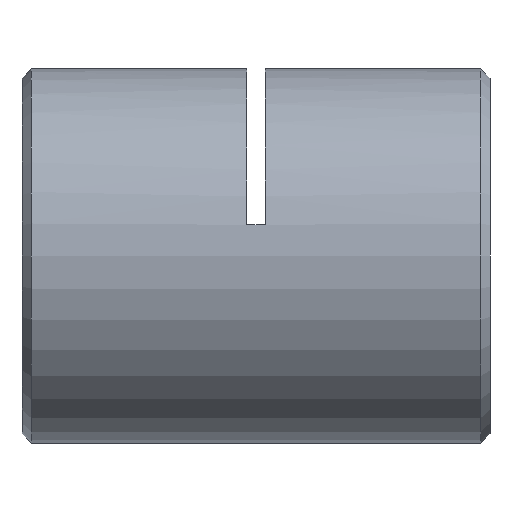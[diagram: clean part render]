
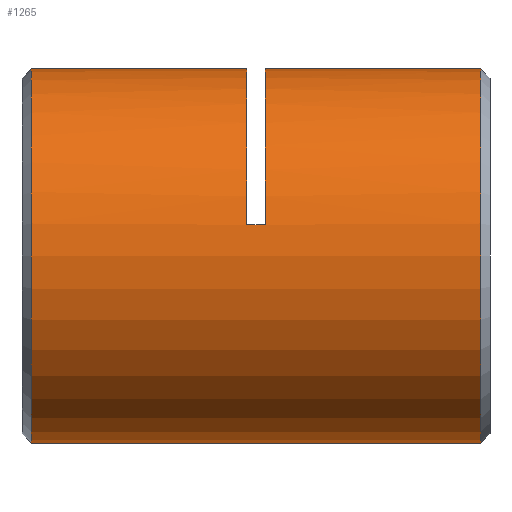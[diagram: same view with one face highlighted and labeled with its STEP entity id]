
A CAD part, left-side view. The second image highlights one B-rep face of the part: STEP entity #1265.
In plain terms, the highlighted cylindrical face has radius 10 mm (diameter 20 mm), a partial arc.
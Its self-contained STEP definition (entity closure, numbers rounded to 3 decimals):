
#43 = VECTOR ( 'NONE', #2853, 1000. ) ;
#56 = EDGE_CURVE ( 'NONE', #2049, #3313, #126, .T. ) ;
#80 = LINE ( 'NONE', #728, #2933 ) ;
#126 = CIRCLE ( 'NONE', #2298, 10. ) ;
#157 = DIRECTION ( 'NONE',  ( 0., 1., 0. ) ) ;
#378 = EDGE_CURVE ( 'NONE', #1871, #2916, #80, .T. ) ;
#428 = CARTESIAN_POINT ( 'NONE',  ( -9.86, 12.25, 1.667 ) ) ;
#469 = CARTESIAN_POINT ( 'NONE',  ( 0., 24.75, 0. ) ) ;
#503 = CARTESIAN_POINT ( 'NONE',  ( 0., 0., 10. ) ) ;
#508 = DIRECTION ( 'NONE',  ( 0., -1., 0. ) ) ;
#528 = VERTEX_POINT ( 'NONE', #2002 ) ;
#639 = CARTESIAN_POINT ( 'NONE',  ( 0., 0.75, 10. ) ) ;
#677 = VECTOR ( 'NONE', #2865, 1000. ) ;
#728 = CARTESIAN_POINT ( 'NONE',  ( 0., 0., 10. ) ) ;
#733 = EDGE_LOOP ( 'NONE', ( #929, #1790, #3295, #2967, #3141, #3431, #1980, #3293 ) ) ;
#769 = LINE ( 'NONE', #503, #677 ) ;
#929 = ORIENTED_EDGE ( 'NONE', *, *, #3006, .F. ) ;
#976 = EDGE_CURVE ( 'NONE', #1396, #3313, #769, .T. ) ;
#981 = DIRECTION ( 'NONE',  ( 0., 1., 0. ) ) ;
#997 = CARTESIAN_POINT ( 'NONE',  ( 0., 12.25, 0. ) ) ;
#1013 = AXIS2_PLACEMENT_3D ( 'NONE', #1973, #2786, #1356 ) ;
#1121 = EDGE_CURVE ( 'NONE', #528, #1871, #2281, .T. ) ;
#1175 = EDGE_CURVE ( 'NONE', #3473, #1396, #1870, .T. ) ;
#1251 = CIRCLE ( 'NONE', #3305, 10. ) ;
#1265 = ADVANCED_FACE ( 'NONE', ( #3051 ), #3731, .T. ) ;
#1356 = DIRECTION ( 'NONE',  ( 0., 0., 1. ) ) ;
#1394 = DIRECTION ( 'NONE',  ( 0., 0., 1. ) ) ;
#1396 = VERTEX_POINT ( 'NONE', #639 ) ;
#1433 = CARTESIAN_POINT ( 'NONE',  ( 0., 0., 0. ) ) ;
#1506 = CARTESIAN_POINT ( 'NONE',  ( 0., 12.25, 10. ) ) ;
#1588 = AXIS2_PLACEMENT_3D ( 'NONE', #3736, #1715, #1394 ) ;
#1605 = LINE ( 'NONE', #1981, #43 ) ;
#1666 = DIRECTION ( 'NONE',  ( 0., 0., -1. ) ) ;
#1715 = DIRECTION ( 'NONE',  ( 0., 1., 0. ) ) ;
#1727 = LINE ( 'NONE', #3020, #2554 ) ;
#1790 = ORIENTED_EDGE ( 'NONE', *, *, #1175, .T. ) ;
#1870 = CIRCLE ( 'NONE', #1588, 10. ) ;
#1871 = VERTEX_POINT ( 'NONE', #3580 ) ;
#1973 = CARTESIAN_POINT ( 'NONE',  ( 0., 13.25, 0. ) ) ;
#1980 = ORIENTED_EDGE ( 'NONE', *, *, #378, .T. ) ;
#1981 = CARTESIAN_POINT ( 'NONE',  ( 0., 0., -10. ) ) ;
#2002 = CARTESIAN_POINT ( 'NONE',  ( -9.86, 13.25, 1.667 ) ) ;
#2049 = VERTEX_POINT ( 'NONE', #428 ) ;
#2186 = EDGE_CURVE ( 'NONE', #2916, #2752, #1251, .T. ) ;
#2281 = CIRCLE ( 'NONE', #1013, 10. ) ;
#2298 = AXIS2_PLACEMENT_3D ( 'NONE', #997, #981, #3299 ) ;
#2328 = AXIS2_PLACEMENT_3D ( 'NONE', #1433, #2872, #3438 ) ;
#2360 = CARTESIAN_POINT ( 'NONE',  ( 0., 24.75, -10. ) ) ;
#2477 = CARTESIAN_POINT ( 'NONE',  ( 0., 24.75, 10. ) ) ;
#2495 = CARTESIAN_POINT ( 'NONE',  ( 0., 0.75, -10. ) ) ;
#2554 = VECTOR ( 'NONE', #3046, 1000. ) ;
#2752 = VERTEX_POINT ( 'NONE', #2360 ) ;
#2786 = DIRECTION ( 'NONE',  ( 0., 1., 0. ) ) ;
#2853 = DIRECTION ( 'NONE',  ( 0., 1., 0. ) ) ;
#2865 = DIRECTION ( 'NONE',  ( 0., 1., 0. ) ) ;
#2872 = DIRECTION ( 'NONE',  ( 0., 1., 0. ) ) ;
#2916 = VERTEX_POINT ( 'NONE', #2477 ) ;
#2933 = VECTOR ( 'NONE', #157, 1000. ) ;
#2967 = ORIENTED_EDGE ( 'NONE', *, *, #56, .F. ) ;
#3006 = EDGE_CURVE ( 'NONE', #3473, #2752, #1605, .T. ) ;
#3020 = CARTESIAN_POINT ( 'NONE',  ( -9.86, 12.75, 1.667 ) ) ;
#3046 = DIRECTION ( 'NONE',  ( 0., 1., 0. ) ) ;
#3051 = FACE_OUTER_BOUND ( 'NONE', #733, .T. ) ;
#3141 = ORIENTED_EDGE ( 'NONE', *, *, #3541, .T. ) ;
#3293 = ORIENTED_EDGE ( 'NONE', *, *, #2186, .T. ) ;
#3295 = ORIENTED_EDGE ( 'NONE', *, *, #976, .T. ) ;
#3299 = DIRECTION ( 'NONE',  ( 0., 0., 1. ) ) ;
#3305 = AXIS2_PLACEMENT_3D ( 'NONE', #469, #508, #1666 ) ;
#3313 = VERTEX_POINT ( 'NONE', #1506 ) ;
#3431 = ORIENTED_EDGE ( 'NONE', *, *, #1121, .T. ) ;
#3438 = DIRECTION ( 'NONE',  ( 0., 0., 1. ) ) ;
#3473 = VERTEX_POINT ( 'NONE', #2495 ) ;
#3541 = EDGE_CURVE ( 'NONE', #2049, #528, #1727, .T. ) ;
#3580 = CARTESIAN_POINT ( 'NONE',  ( 0., 13.25, 10. ) ) ;
#3731 = CYLINDRICAL_SURFACE ( 'NONE', #2328, 10. ) ;
#3736 = CARTESIAN_POINT ( 'NONE',  ( 0., 0.75, 0. ) ) ;
